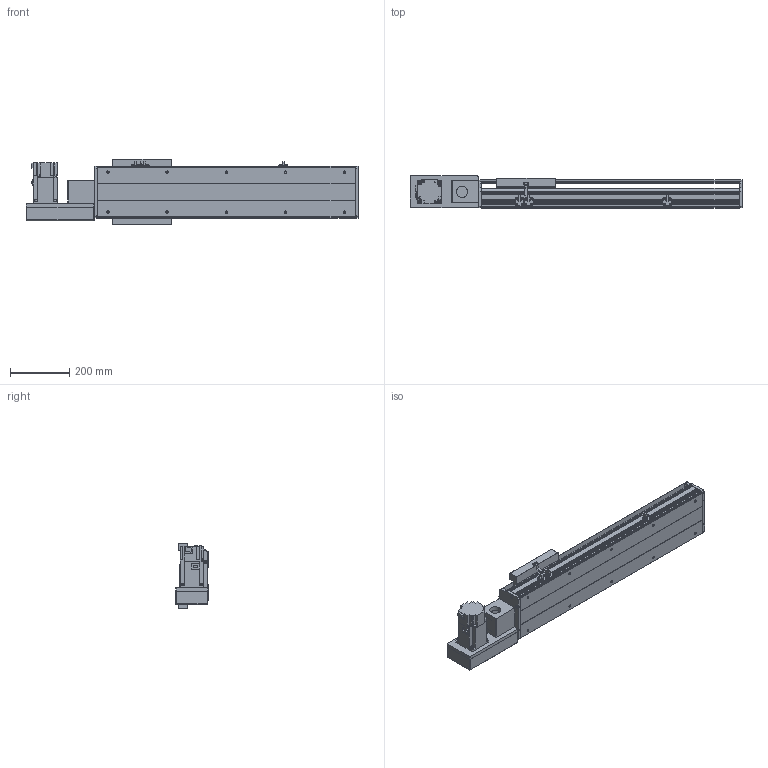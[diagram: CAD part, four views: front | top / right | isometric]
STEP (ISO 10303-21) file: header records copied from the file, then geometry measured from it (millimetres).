
FILE_DESCRIPTION(/* description */ ('STEP AP214'),/* implementation_level */ '2;1');
FILE_NAME(/* name */ 'PBS200-P40-S500-L-T75-C1-N(0)',/* time_stamp */ '2022-06-11T07:48:03+02:00',/* author */ ('License CC BY-ND 4.0'),/* organization */ ('CADENAS'),/* preprocessor_version */ 'ST-DEVELOPER v18.102',/* originating_system */ 'PARTsolutions',/* authorisation */ ' ');
FILE_SCHEMA (('AUTOMOTIVE_DESIGN {1 0 10303 214 3 1 1}'));
Length unit declared in the file: millimetre
Products named in the file (7): PBS200-P40-S500-L-T75-C1-N(0); PBS200_sensor; PBS200_plant; PBS200_sliser; T75-p1; PBS200T-L_motors; PBS200-S500()_body
Assembly tree (8 placements, depth 2):
  PBS200-P40-S500-L-T75-C1-N(0)
    PBS200_sensor  x3
    PBS200_plant
    PBS200_sliser
    T75-p1
    PBS200T-L_motors
    PBS200-S500()_body
Bounding box: 1122 x 109 x 221 mm (x, y, z)
Volume: 8115450.3 mm3; surface area: 1327062.7 mm2
Topology: 8 solids, 8 shells, 902 faces, 2344 edges, 1530 vertices
Faces by surface type: plane 568, cylinder 292, cone 42
Full cylindrical faces by diameter (mm): 2.459 x6, 3.242 x4, 4.5 x6, 4.917 x4, 5 x6, 6 x7, 6.6 x8, 6.647 x14, 8 x6, 10 x4, 12 x8, 38 x2, 40 x1, 70 x1
Entity records: 24221 total; most frequent: DIRECTION 4255, CARTESIAN_POINT 4138, ORIENTED_EDGE 3946, EDGE_CURVE 1973, AXIS2_PLACEMENT_3D 1471, VERTEX_POINT 1354, LINE 1313, VECTOR 1313
